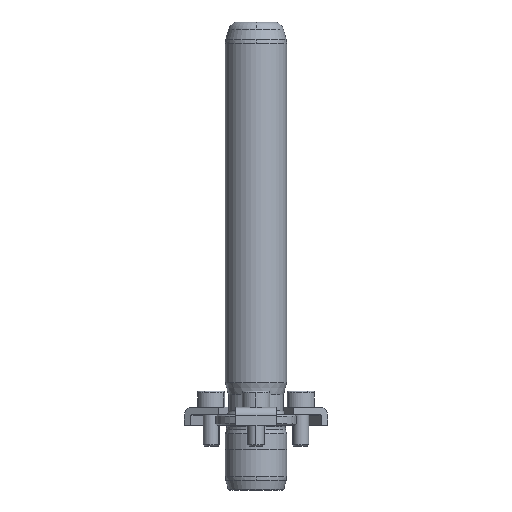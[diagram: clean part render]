
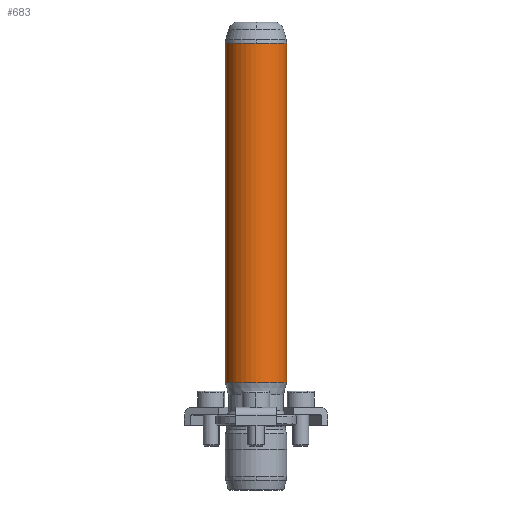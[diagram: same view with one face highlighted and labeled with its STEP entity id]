
A CAD part, front view. The second image highlights one B-rep face of the part: STEP entity #683.
In plain terms, the highlighted cylindrical face has radius 9.5 mm (diameter 19 mm), a partial arc.
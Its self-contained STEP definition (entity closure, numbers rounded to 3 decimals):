
#596=CARTESIAN_POINT('',(0.0,-9.5,118.342));
#597=VERTEX_POINT('',#596);
#624=CARTESIAN_POINT('',(-9.5,0.,118.342));
#625=VERTEX_POINT('',#624);
#633=CARTESIAN_POINT('',(0.0,0.,118.342));
#634=DIRECTION('',(0.0,0.0,1.0));
#635=DIRECTION('',(1.0,0.0,0.0));
#636=AXIS2_PLACEMENT_3D('',#633,#634,#635);
#637=CIRCLE('',#636,9.5);
#638=EDGE_CURVE('',#625,#597,#637,.T.);
#643=CARTESIAN_POINT('',(0.0,0.,65.821));
#644=DIRECTION('',(0.0,0.,1.0));
#645=DIRECTION('',(1.0,0.0,0.0));
#646=AXIS2_PLACEMENT_3D('',#643,#644,#645);
#647=CYLINDRICAL_SURFACE('',#646,9.5);
#648=CARTESIAN_POINT('',(9.5,0.,118.342));
#649=VERTEX_POINT('',#648);
#650=CARTESIAN_POINT('',(9.5,0.,13.3));
#651=VERTEX_POINT('',#650);
#652=CARTESIAN_POINT('',(9.5,0.,118.342));
#653=DIRECTION('',(0.0,0.0,-1.0));
#654=VECTOR('',#653,105.042);
#655=LINE('',#652,#654);
#656=EDGE_CURVE('',#649,#651,#655,.T.);
#657=ORIENTED_EDGE('',*,*,#656,.F.);
#658=CARTESIAN_POINT('',(0.0,0.,118.342));
#659=DIRECTION('',(0.0,0.0,1.0));
#660=DIRECTION('',(1.0,0.0,0.0));
#661=AXIS2_PLACEMENT_3D('',#658,#659,#660);
#662=CIRCLE('',#661,9.5);
#663=EDGE_CURVE('',#597,#649,#662,.T.);
#664=ORIENTED_EDGE('',*,*,#663,.F.);
#665=ORIENTED_EDGE('',*,*,#638,.F.);
#666=CARTESIAN_POINT('',(-9.5,0.,13.3));
#667=VERTEX_POINT('',#666);
#668=CARTESIAN_POINT('',(-9.5,0.,118.342));
#669=DIRECTION('',(0.0,0.0,-1.0));
#670=VECTOR('',#669,105.042);
#671=LINE('',#668,#670);
#672=EDGE_CURVE('',#625,#667,#671,.T.);
#673=ORIENTED_EDGE('',*,*,#672,.T.);
#674=CARTESIAN_POINT('',(0.0,0.,13.3));
#675=DIRECTION('',(0.0,0.0,1.0));
#676=DIRECTION('',(1.0,0.0,0.0));
#677=AXIS2_PLACEMENT_3D('',#674,#675,#676);
#678=CIRCLE('',#677,9.5);
#679=EDGE_CURVE('',#667,#651,#678,.T.);
#680=ORIENTED_EDGE('',*,*,#679,.T.);
#681=EDGE_LOOP('',(#657,#664,#665,#673,#680));
#682=FACE_OUTER_BOUND('',#681,.T.);
#683=ADVANCED_FACE('',(#682),#647,.T.);
